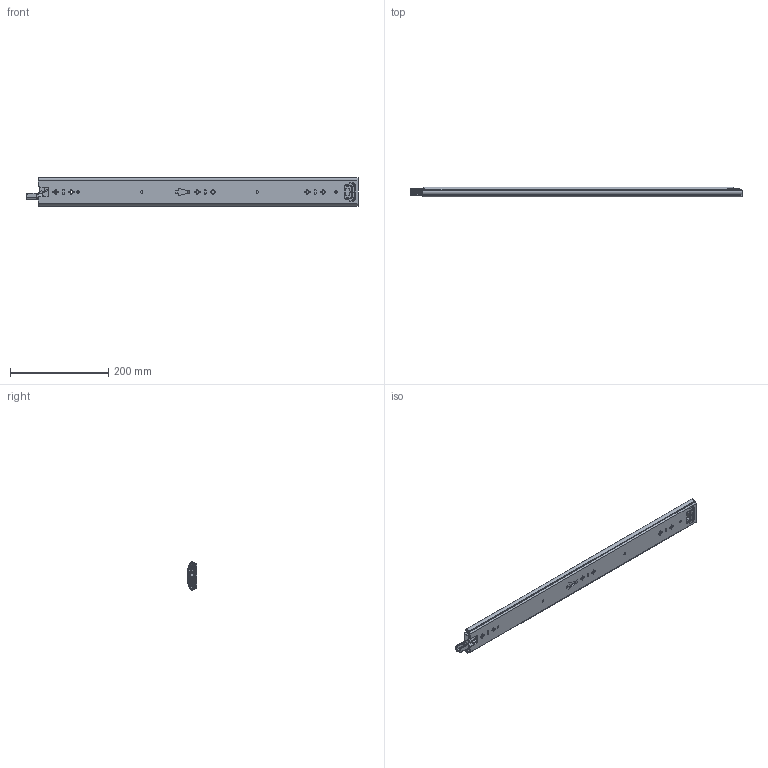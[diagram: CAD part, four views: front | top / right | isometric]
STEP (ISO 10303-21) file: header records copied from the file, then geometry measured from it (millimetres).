
FILE_DESCRIPTION((''),'2;1');
FILE_NAME('KP-57-01ZUZHUANGTU-26_ASM','2023-03-30T',('jishu015'),(''),'PRO/ENGINEER BY PARAMETRIC TECHNOLOGY CORPORATION, 2010280','PRO/ENGINEER BY PARAMETRIC TECHNOLOGY CORPORATION, 2010280','');
FILE_SCHEMA(('CONFIG_CONTROL_DESIGN'));
Products named in the file (22): KP-57-01WEIKE-18_____________; 1057WEIJIAO_____________; WAIKE____________ASM; KP-57-01ZHONGGUI-26; ZHONGGUIPEIJIAN-11___________; ZHONGGUISUOKOU-11___________; KP-57-01ZHONGGUI-26_ASM; 1057XIAOZHUJIA_____________; 1057-5-6GANZHU_____________; 1057XIAOZHUJIA-14GE26_ASM; KP-57-01NEIGUI-18_____________; PJ-57-08___________; DIAOPIAN-11___________; 50XINSUOKOU-1___________; TANHUANG___________; 1053-3SBANJI122_________; JIAO11_________; KP-57-01NEIGUI-18______________ASM; 1053ZHUTIAO-275; 53-5-6GANZHU_________________; 1053ZHUTIAO-175MM____________ASM; KP-57-01ZUZHUANGTU-26_ASM
Assembly tree (75 placements, depth 3):
  KP-57-01ZUZHUANGTU-26_ASM
    WAIKE____________ASM
      KP-57-01WEIKE-18_____________
      1057WEIJIAO_____________
    KP-57-01ZHONGGUI-26_ASM
      KP-57-01ZHONGGUI-26
      ZHONGGUIPEIJIAN-11___________
      ZHONGGUISUOKOU-11___________
    1057XIAOZHUJIA-14GE26_ASM
      1057XIAOZHUJIA_____________
      1057-5-6GANZHU_____________  x44
    KP-57-01NEIGUI-18______________ASM
      KP-57-01NEIGUI-18_____________
      PJ-57-08___________
      DIAOPIAN-11___________
      50XINSUOKOU-1___________
      TANHUANG___________
      1053-3SBANJI122_________
      JIAO11_________
    1053ZHUTIAO-175MM____________ASM  x2
      1053ZHUTIAO-275
      53-5-6GANZHU_________________
Bounding box: 675.42 x 19 x 57.67 mm (x, y, z)
Volume: 284039.5 mm3; surface area: 308629.6 mm2
Topology: 84 solids, 84 shells, 2246 faces, 6445 edges, 4034 vertices
Faces by surface type: cylinder 956, plane 925, sphere 143, bspline 106, cone 68, torus 25, extrusion 23
Entity records: 73359 total; most frequent: CARTESIAN_POINT 18372, ORIENTED_EDGE 11642, DIRECTION 11298, EDGE_CURVE 5821, AXIS2_PLACEMENT_3D 3903, VERTEX_POINT 3758, VECTOR 3492, LINE 3469
